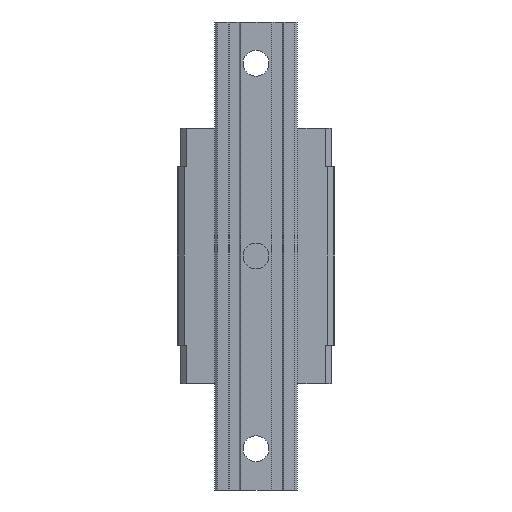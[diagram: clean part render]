
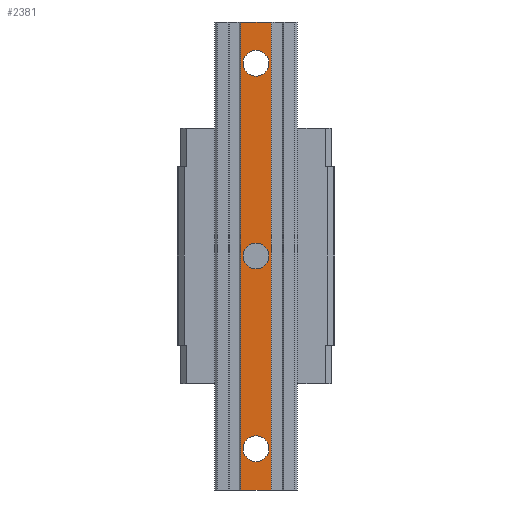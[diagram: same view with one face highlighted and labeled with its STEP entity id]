
A CAD part, front view. The second image highlights one B-rep face of the part: STEP entity #2381.
In plain terms, the highlighted planar face has unit normal (0, -1, 0).
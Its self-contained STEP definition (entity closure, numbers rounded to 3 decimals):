
#14 = CARTESIAN_POINT ( 'NONE',  ( -8.25, -38., -127.5 ) ) ;
#22 = AXIS2_PLACEMENT_3D ( 'NONE', #5306, #1651, #48 ) ;
#47 = DIRECTION ( 'NONE',  ( 1., 0., 0. ) ) ;
#48 = DIRECTION ( 'NONE',  ( 0., 0., 1. ) ) ;
#69 = DIRECTION ( 'NONE',  ( 1., 0., 0. ) ) ;
#170 = CARTESIAN_POINT ( 'NONE',  ( 0., -38., 98. ) ) ;
#321 = ORIENTED_EDGE ( 'NONE', *, *, #1324, .T. ) ;
#417 = EDGE_CURVE ( 'NONE', #4937, #1102, #5637, .T. ) ;
#440 = EDGE_LOOP ( 'NONE', ( #321, #4555 ) ) ;
#506 = DIRECTION ( 'NONE',  ( 0., 0., -1. ) ) ;
#511 = ORIENTED_EDGE ( 'NONE', *, *, #3057, .T. ) ;
#630 = DIRECTION ( 'NONE',  ( 0., 1., 0. ) ) ;
#826 = VECTOR ( 'NONE', #69, 1000. ) ;
#867 = VECTOR ( 'NONE', #47, 1000. ) ;
#1042 = CARTESIAN_POINT ( 'NONE',  ( -8.25, -38., -127.5 ) ) ;
#1053 = LINE ( 'NONE', #5337, #867 ) ;
#1091 = CARTESIAN_POINT ( 'NONE',  ( 0., -38., 112. ) ) ;
#1102 = VERTEX_POINT ( 'NONE', #6455 ) ;
#1122 = DIRECTION ( 'NONE',  ( 0., 1., 0. ) ) ;
#1210 = CARTESIAN_POINT ( 'NONE',  ( 0., -38., -98. ) ) ;
#1281 = CARTESIAN_POINT ( 'NONE',  ( 0., -38., -112. ) ) ;
#1321 = VERTEX_POINT ( 'NONE', #1210 ) ;
#1324 = EDGE_CURVE ( 'NONE', #2389, #3187, #1404, .T. ) ;
#1327 = CARTESIAN_POINT ( 'NONE',  ( 0., -38., 105. ) ) ;
#1404 = CIRCLE ( 'NONE', #3170, 7. ) ;
#1611 = CARTESIAN_POINT ( 'NONE',  ( -8.25, -38., 127.5 ) ) ;
#1651 = DIRECTION ( 'NONE',  ( 0., 1., 0. ) ) ;
#1674 = DIRECTION ( 'NONE',  ( 0., 1., 0. ) ) ;
#1842 = ORIENTED_EDGE ( 'NONE', *, *, #417, .T. ) ;
#2003 = CARTESIAN_POINT ( 'NONE',  ( 0., -38., 7. ) ) ;
#2005 = CARTESIAN_POINT ( 'NONE',  ( 0., -38., -7. ) ) ;
#2029 = CIRCLE ( 'NONE', #3901, 7. ) ;
#2086 = CARTESIAN_POINT ( 'NONE',  ( 0., -38., 105. ) ) ;
#2238 = CIRCLE ( 'NONE', #6428, 7. ) ;
#2325 = ORIENTED_EDGE ( 'NONE', *, *, #4113, .T. ) ;
#2362 = VERTEX_POINT ( 'NONE', #2005 ) ;
#2381 = ADVANCED_FACE ( 'NONE', ( #4019, #4116, #6122, #5135 ), #6609, .T. ) ;
#2389 = VERTEX_POINT ( 'NONE', #1091 ) ;
#2686 = DIRECTION ( 'NONE',  ( 0., 0., -1. ) ) ;
#2809 = DIRECTION ( 'NONE',  ( 0., 1., 0. ) ) ;
#2813 = DIRECTION ( 'NONE',  ( 0., 0., 1. ) ) ;
#2834 = ORIENTED_EDGE ( 'NONE', *, *, #5740, .T. ) ;
#2856 = VERTEX_POINT ( 'NONE', #6326 ) ;
#3002 = EDGE_LOOP ( 'NONE', ( #511, #6672 ) ) ;
#3057 = EDGE_CURVE ( 'NONE', #6015, #2362, #2029, .T. ) ;
#3096 = VERTEX_POINT ( 'NONE', #1611 ) ;
#3170 = AXIS2_PLACEMENT_3D ( 'NONE', #2086, #630, #3864 ) ;
#3187 = VERTEX_POINT ( 'NONE', #170 ) ;
#3250 = CARTESIAN_POINT ( 'NONE',  ( 0., -38., 0. ) ) ;
#3268 = CARTESIAN_POINT ( 'NONE',  ( 0., -38., 127.5 ) ) ;
#3461 = VECTOR ( 'NONE', #3539, 1000. ) ;
#3539 = DIRECTION ( 'NONE',  ( 0., 0., 1. ) ) ;
#3572 = EDGE_CURVE ( 'NONE', #3096, #1102, #6412, .T. ) ;
#3748 = CIRCLE ( 'NONE', #6843, 7. ) ;
#3864 = DIRECTION ( 'NONE',  ( 0., 0., 1. ) ) ;
#3901 = AXIS2_PLACEMENT_3D ( 'NONE', #3250, #1122, #5379 ) ;
#4019 = FACE_BOUND ( 'NONE', #3002, .T. ) ;
#4113 = EDGE_CURVE ( 'NONE', #1321, #5937, #3748, .T. ) ;
#4116 = FACE_BOUND ( 'NONE', #440, .T. ) ;
#4207 = LINE ( 'NONE', #1042, #4287 ) ;
#4250 = CIRCLE ( 'NONE', #6550, 7. ) ;
#4287 = VECTOR ( 'NONE', #506, 1000. ) ;
#4422 = DIRECTION ( 'NONE',  ( 0., 0., 1. ) ) ;
#4513 = CARTESIAN_POINT ( 'NONE',  ( 0., -38., -105. ) ) ;
#4555 = ORIENTED_EDGE ( 'NONE', *, *, #6650, .T. ) ;
#4574 = ORIENTED_EDGE ( 'NONE', *, *, #4822, .T. ) ;
#4739 = ORIENTED_EDGE ( 'NONE', *, *, #5190, .T. ) ;
#4822 = EDGE_CURVE ( 'NONE', #3096, #2856, #4207, .T. ) ;
#4912 = CARTESIAN_POINT ( 'NONE',  ( 0., -38., -105. ) ) ;
#4937 = VERTEX_POINT ( 'NONE', #6687 ) ;
#5135 = FACE_OUTER_BOUND ( 'NONE', #5782, .T. ) ;
#5190 = EDGE_CURVE ( 'NONE', #2856, #4937, #1053, .T. ) ;
#5306 = CARTESIAN_POINT ( 'NONE',  ( 0., -38., 0. ) ) ;
#5337 = CARTESIAN_POINT ( 'NONE',  ( 0., -38., -127.5 ) ) ;
#5379 = DIRECTION ( 'NONE',  ( 0., 0., 1. ) ) ;
#5637 = LINE ( 'NONE', #6685, #3461 ) ;
#5740 = EDGE_CURVE ( 'NONE', #5937, #1321, #2238, .T. ) ;
#5775 = ORIENTED_EDGE ( 'NONE', *, *, #3572, .F. ) ;
#5782 = EDGE_LOOP ( 'NONE', ( #1842, #5775, #4574, #4739 ) ) ;
#5872 = DIRECTION ( 'NONE',  ( 0., -1., 0. ) ) ;
#5937 = VERTEX_POINT ( 'NONE', #1281 ) ;
#6015 = VERTEX_POINT ( 'NONE', #2003 ) ;
#6122 = FACE_BOUND ( 'NONE', #6123, .T. ) ;
#6123 = EDGE_LOOP ( 'NONE', ( #2325, #2834 ) ) ;
#6179 = AXIS2_PLACEMENT_3D ( 'NONE', #14, #5872, #2686 ) ;
#6217 = DIRECTION ( 'NONE',  ( 0., 0., 1. ) ) ;
#6275 = EDGE_CURVE ( 'NONE', #2362, #6015, #6333, .T. ) ;
#6326 = CARTESIAN_POINT ( 'NONE',  ( -8.25, -38., -127.5 ) ) ;
#6333 = CIRCLE ( 'NONE', #22, 7. ) ;
#6412 = LINE ( 'NONE', #3268, #826 ) ;
#6428 = AXIS2_PLACEMENT_3D ( 'NONE', #4912, #1674, #2813 ) ;
#6455 = CARTESIAN_POINT ( 'NONE',  ( 8.25, -38., 127.5 ) ) ;
#6550 = AXIS2_PLACEMENT_3D ( 'NONE', #1327, #2809, #4422 ) ;
#6609 = PLANE ( 'NONE',  #6179 ) ;
#6635 = DIRECTION ( 'NONE',  ( 0., 1., 0. ) ) ;
#6650 = EDGE_CURVE ( 'NONE', #3187, #2389, #4250, .T. ) ;
#6672 = ORIENTED_EDGE ( 'NONE', *, *, #6275, .T. ) ;
#6685 = CARTESIAN_POINT ( 'NONE',  ( 8.25, -38., -127.5 ) ) ;
#6687 = CARTESIAN_POINT ( 'NONE',  ( 8.25, -38., -127.5 ) ) ;
#6843 = AXIS2_PLACEMENT_3D ( 'NONE', #4513, #6635, #6217 ) ;
